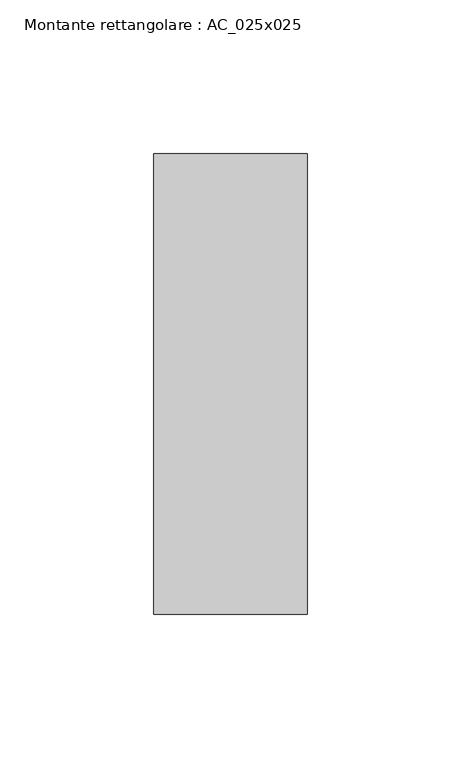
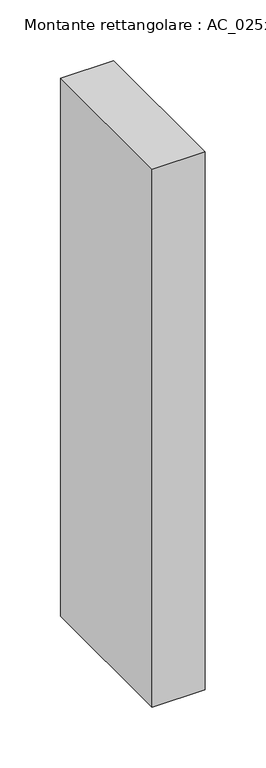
"""IFC4 building model written with IfcOpenShell, lengths in millimetres: member geometry, Montante rettangolare : AC_025x025."""

from ifc_helpers import new_model, si_unit, frame, origin, place, context, project, spatial, polyline, outline, extrude, source, transform, mapped, element, save


def montante_rettangolare_ac_025x025_512be482(model_context):
    return source(origin(), model_context, "Body", "SweptSolid", [
        extrude(outline(polyline([(25.0, 75.0), (25.0, -75.0), (-25.0, -75.0), (-25.0, 75.0), (25.0, 75.0)])), frame((0.0, 0.0, -538.0), z_axis=(0.0, 0.0, 1.0), x_axis=(1.0, 0.0, 0.0)), (0.0, 0.0, 1.0), 538.0),
    ])


if __name__ == "__main__":
    model = new_model("IFC4")
    model_context = context("Model", 3, world=origin())
    ifc_project = project(units=[si_unit("LENGTHUNIT", "METRE", prefix="MILLI")], contexts=[model_context])
    site = spatial("IfcSite", under=ifc_project)
    building = spatial("IfcBuilding", under=site)
    placement = place(None, origin())
    montante_rettangolare_ac_025x025_shape = montante_rettangolare_ac_025x025_512be482(model_context)
    element("IfcMember", 1, ObjectType="Montante rettangolare : AC_025x025", at=placement, inside=building, context=model_context, shape_type="MappedRepresentation", body=[
        mapped(montante_rettangolare_ac_025x025_shape, transform((0.0, 0.0, 0.0), x_axis=(1.0, 0.0, 0.0), y_axis=(0.0, 1.0, 0.0), z_axis=(0.0, 0.0, 1.0))),
    ])
    save(model, "model.ifc")
